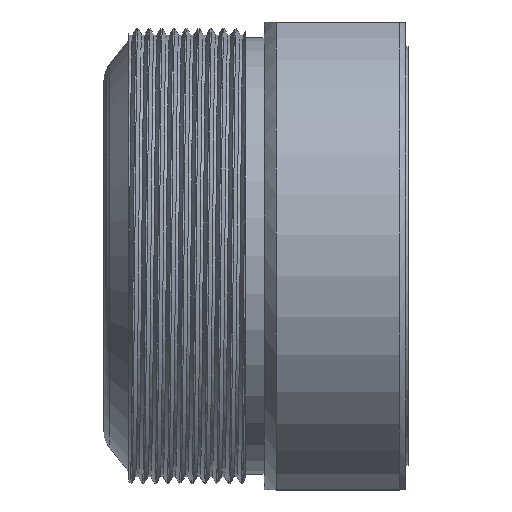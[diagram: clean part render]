
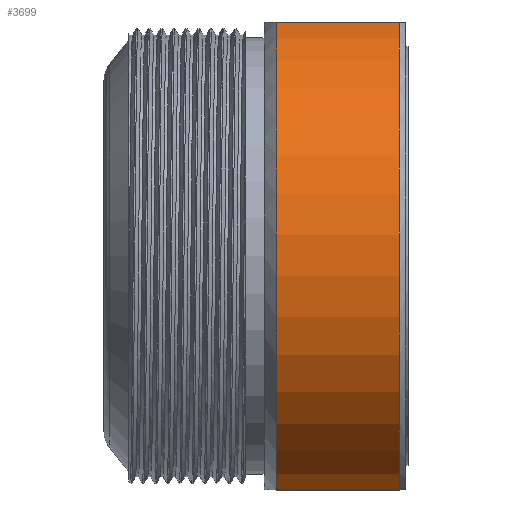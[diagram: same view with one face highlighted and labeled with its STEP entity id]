
A CAD part, top view. The second image highlights one B-rep face of the part: STEP entity #3699.
In plain terms, the highlighted cylindrical face has radius 20 mm (diameter 40 mm), a partial arc.
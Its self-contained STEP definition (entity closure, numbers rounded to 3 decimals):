
#123 = CARTESIAN_POINT ( 'NONE',  ( -0.7, 0., 0. ) ) ;
#178 = CYLINDRICAL_SURFACE ( 'NONE', #1792, 20. ) ;
#387 = VECTOR ( 'NONE', #2193, 1000. ) ;
#461 = DIRECTION ( 'NONE',  ( 1., 0., 0. ) ) ;
#871 = EDGE_CURVE ( 'NONE', #2725, #2766, #3392, .T. ) ;
#1051 = ORIENTED_EDGE ( 'NONE', *, *, #3368, .T. ) ;
#1216 = AXIS2_PLACEMENT_3D ( 'NONE', #123, #3748, #2163 ) ;
#1525 = VECTOR ( 'NONE', #461, 1000. ) ;
#1546 = VERTEX_POINT ( 'NONE', #3777 ) ;
#1676 = EDGE_CURVE ( 'NONE', #1546, #2766, #2994, .T. ) ;
#1792 = AXIS2_PLACEMENT_3D ( 'NONE', #2898, #2938, #3492 ) ;
#1913 = DIRECTION ( 'NONE',  ( 0., 0., 1. ) ) ;
#2163 = DIRECTION ( 'NONE',  ( 0., 0., -1. ) ) ;
#2193 = DIRECTION ( 'NONE',  ( -1., 0., 0. ) ) ;
#2209 = CARTESIAN_POINT ( 'NONE',  ( -10.7, 0., 0. ) ) ;
#2353 = AXIS2_PLACEMENT_3D ( 'NONE', #2209, #3449, #1913 ) ;
#2360 = CARTESIAN_POINT ( 'NONE',  ( -10.7, -19., 6.245 ) ) ;
#2442 = EDGE_LOOP ( 'NONE', ( #2647, #1051, #3611, #3899 ) ) ;
#2479 = CIRCLE ( 'NONE', #1216, 20. ) ;
#2647 = ORIENTED_EDGE ( 'NONE', *, *, #871, .F. ) ;
#2725 = VERTEX_POINT ( 'NONE', #3604 ) ;
#2766 = VERTEX_POINT ( 'NONE', #2360 ) ;
#2797 = CARTESIAN_POINT ( 'NONE',  ( 0., 19., 6.245 ) ) ;
#2898 = CARTESIAN_POINT ( 'NONE',  ( 0., 0., 0. ) ) ;
#2938 = DIRECTION ( 'NONE',  ( 1., 0., 0. ) ) ;
#2994 = CIRCLE ( 'NONE', #2353, 20. ) ;
#3091 = EDGE_CURVE ( 'NONE', #1546, #3241, #3763, .T. ) ;
#3241 = VERTEX_POINT ( 'NONE', #3943 ) ;
#3368 = EDGE_CURVE ( 'NONE', #2725, #3241, #2479, .T. ) ;
#3392 = LINE ( 'NONE', #3741, #387 ) ;
#3449 = DIRECTION ( 'NONE',  ( 1., 0., 0. ) ) ;
#3492 = DIRECTION ( 'NONE',  ( 0., 0., -1. ) ) ;
#3604 = CARTESIAN_POINT ( 'NONE',  ( -0.7, -19., 6.245 ) ) ;
#3611 = ORIENTED_EDGE ( 'NONE', *, *, #3091, .F. ) ;
#3699 = ADVANCED_FACE ( 'NONE', ( #3804 ), #178, .T. ) ;
#3741 = CARTESIAN_POINT ( 'NONE',  ( 0., -19., 6.245 ) ) ;
#3748 = DIRECTION ( 'NONE',  ( -1., 0., 0. ) ) ;
#3763 = LINE ( 'NONE', #2797, #1525 ) ;
#3777 = CARTESIAN_POINT ( 'NONE',  ( -10.7, 19., 6.245 ) ) ;
#3804 = FACE_OUTER_BOUND ( 'NONE', #2442, .T. ) ;
#3899 = ORIENTED_EDGE ( 'NONE', *, *, #1676, .T. ) ;
#3943 = CARTESIAN_POINT ( 'NONE',  ( -0.7, 19., 6.245 ) ) ;
